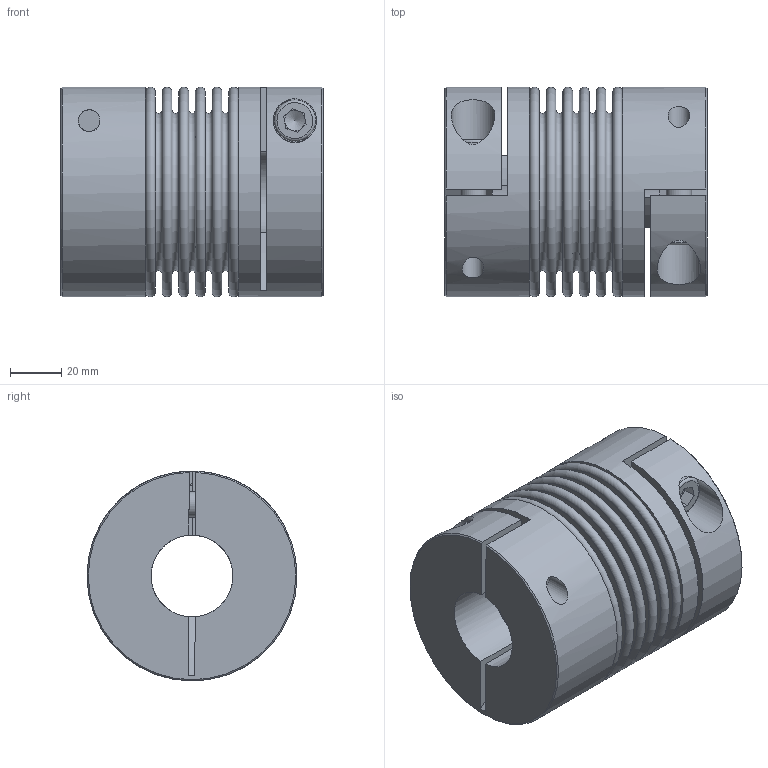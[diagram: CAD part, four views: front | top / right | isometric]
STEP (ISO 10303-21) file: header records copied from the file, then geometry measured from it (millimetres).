
FILE_DESCRIPTION( ( 'Unknown' ), '1' );
FILE_NAME( 'K:/Konstruktion/Homepage/KB4AL/KB4AL-150-102.stp', 'Unknown', ( 'Unknown' ), ( 'Unknown' ), 'PSStep 16.0.42', 'Unknown', ' ' );
FILE_SCHEMA( ( 'AUTOMOTIVE_DESIGN { 1 0 10303 214 1 1 1 1 }' ) );
Length unit declared in the file: millimetre
Products named in the file (4): Assem1; KN80-150_Standard_9; Socket Head Cap Screw_DIN_DIN 912 M10 x 30 --- 30N_9; BL80-150_Standard_4
Assembly tree (5 placements, depth 2):
  Assem1
    KN80-150_Standard_9  x2
    Socket Head Cap Screw_DIN_DIN 912 M10 x 30 --- 30N_9  x2
    BL80-150_Standard_4
Bounding box: 102.35 x 82 x 82 mm (x, y, z)
Volume: 294500.7 mm3; surface area: 126531.6 mm2
Topology: 5 solids, 5 shells, 136 faces, 284 edges, 186 vertices
Faces by surface type: plane 80, torus 26, cylinder 24, cone 6
Full cylindrical faces by diameter (mm): 8.5 x2, 10 x6, 16 x2, 17 x2, 32 x2, 70.7 x2, 71.9 x2, 82 x2
Entity records: 3211 total; most frequent: CARTESIAN_POINT 524, DIRECTION 417, ORIENTED_EDGE 270, AXIS2_PLACEMENT_3D 187, EDGE_LOOP 166, EDGE_CURVE 135, FACE_OUTER_BOUND 130, VERTEX_POINT 124
